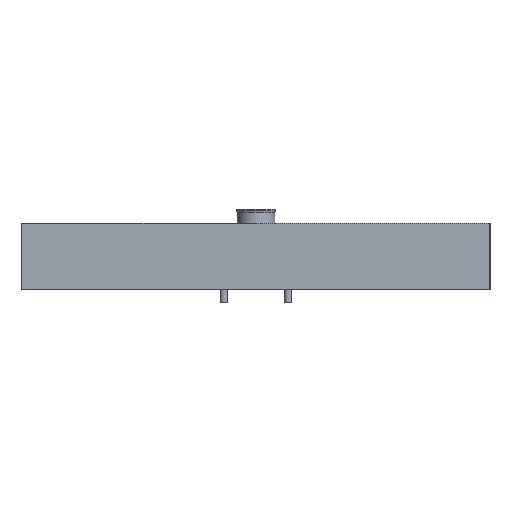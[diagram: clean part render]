
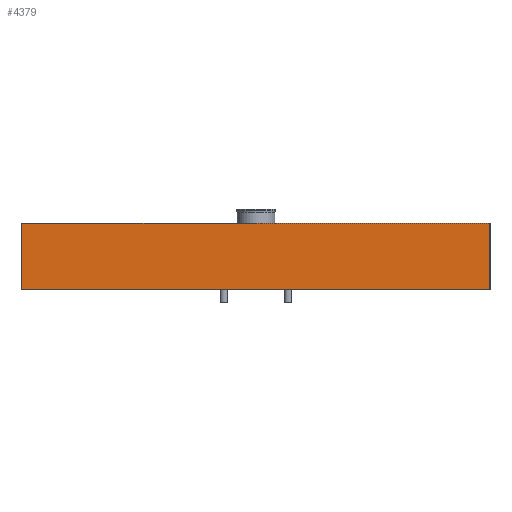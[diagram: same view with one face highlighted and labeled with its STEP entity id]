
A CAD part, left-side view. The second image highlights one B-rep face of the part: STEP entity #4379.
In plain terms, the highlighted planar face has unit normal (-1, 0, 0).
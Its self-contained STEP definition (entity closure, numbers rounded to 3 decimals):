
#4379=ADVANCED_FACE('',(#9135),#9136,.F.);
#9135=FACE_OUTER_BOUND('',#17558,.T.);
#9136=PLANE('',#17559);
#17558=EDGE_LOOP('',(#29863,#29864,#29865,#29866));
#17559=AXIS2_PLACEMENT_3D('',#29867,#29868,#29869);
#29863=ORIENTED_EDGE('',*,*,#34232,.T.);
#29864=ORIENTED_EDGE('',*,*,#36843,.F.);
#29865=ORIENTED_EDGE('',*,*,#33219,.F.);
#29866=ORIENTED_EDGE('',*,*,#35390,.T.);
#29867=CARTESIAN_POINT('',(-348.0,248.0,70.0));
#29868=DIRECTION('',(1.0,0.0,0.0));
#29869=DIRECTION('',(0.0,1.0,0.0));
#33219=EDGE_CURVE('',#39035,#39036,#39037,.T.);
#34232=EDGE_CURVE('',#40679,#40680,#40681,.T.);
#35390=EDGE_CURVE('',#39035,#40679,#42367,.T.);
#36843=EDGE_CURVE('',#39036,#40680,#44170,.T.);
#39035=VERTEX_POINT('',#47809);
#39036=VERTEX_POINT('',#47810);
#39037=LINE('',#47811,#47812);
#40679=VERTEX_POINT('',#51074);
#40680=VERTEX_POINT('',#51075);
#40681=LINE('',#51076,#51077);
#42367=LINE('',#54447,#54448);
#44170=LINE('',#58038,#58039);
#47809=CARTESIAN_POINT('',(-348.0,248.0,70.0));
#47810=CARTESIAN_POINT('',(-348.0,-248.0,70.0));
#47811=CARTESIAN_POINT('',(-348.0,248.0,70.0));
#47812=VECTOR('',#59977,1.0);
#51074=CARTESIAN_POINT('',(-348.0,248.0,0.0));
#51075=CARTESIAN_POINT('',(-348.0,-248.0,0.0));
#51076=CARTESIAN_POINT('',(-348.0,248.0,0.0));
#51077=VECTOR('',#61395,1.0);
#54447=CARTESIAN_POINT('',(-348.0,248.0,70.0));
#54448=VECTOR('',#62753,1.0);
#58038=CARTESIAN_POINT('',(-348.0,-248.0,70.0));
#58039=VECTOR('',#64300,1.0);
#59977=DIRECTION('',(0.0,-1.0,0.0));
#61395=DIRECTION('',(0.0,-1.0,0.0));
#62753=DIRECTION('',(0.0,0.0,-1.0));
#64300=DIRECTION('',(0.0,0.0,-1.0));
